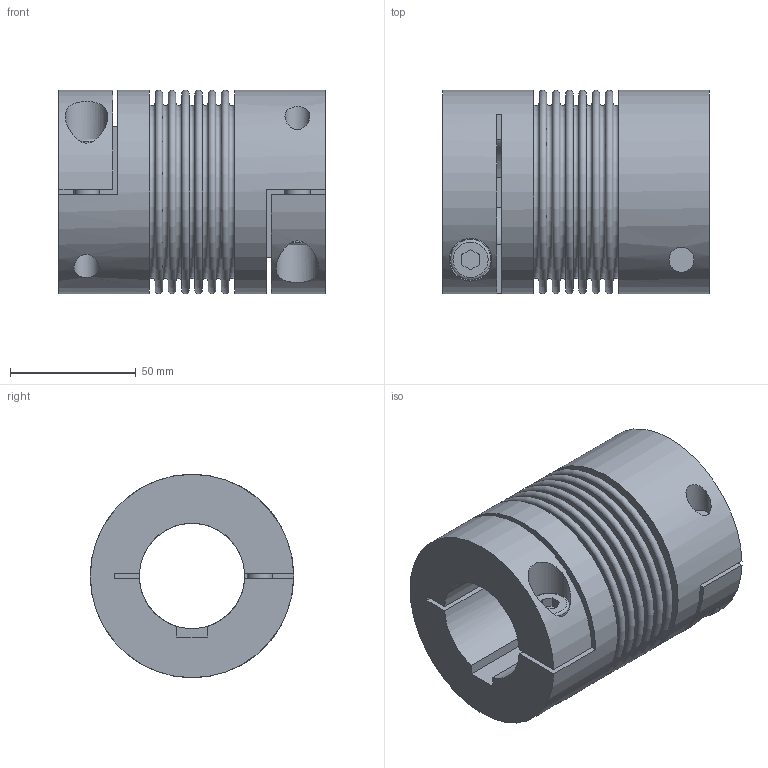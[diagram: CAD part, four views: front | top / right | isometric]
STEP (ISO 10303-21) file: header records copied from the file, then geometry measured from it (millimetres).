
FILE_DESCRIPTION(/* description */ ('STEP AP203'),/* implementation_level */ '2;1');
FILE_NAME(/* name */ 'C:\Diequa Files\DieQua Coupling\Website Step Files\BC.80.106.#.#.stp',/* time_stamp */ '2020-02-17T09:46:12-06:00',/* author */ ('DiequaCAD'),/* organization */ (''),/* preprocessor_version */ 'ST-DEVELOPER v18',/* originating_system */ 'Autodesk Inventor 2020',/* authorisation */ ' ');
FILE_SCHEMA (('AUTOMOTIVE_DESIGN { 1 0 10303 214 3 1 1 }'));
Length unit declared in the file: millimetre
Products named in the file (1): BC.80.106.#.#
Bounding box: 106 x 81.1 x 81.1 mm (x, y, z)
Volume: 284204.7 mm3; surface area: 84117.9 mm2
Topology: 1 solids, 1 shells, 88 faces, 219 edges, 155 vertices
Faces by surface type: plane 58, torus 15, cylinder 15
Full cylindrical faces by diameter (mm): 10 x4, 16 x2, 17 x2, 67 x1, 81 x2
Entity records: 2894 total; most frequent: CARTESIAN_POINT 614, DIRECTION 495, ORIENTED_EDGE 438, EDGE_CURVE 219, AXIS2_PLACEMENT_3D 194, VERTEX_POINT 155, EDGE_LOOP 116, LINE 107
